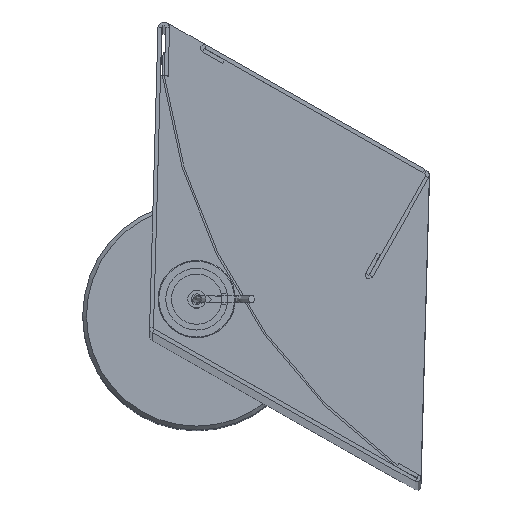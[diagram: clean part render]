
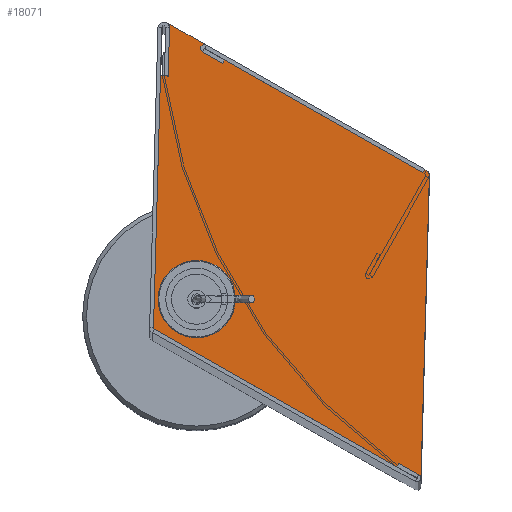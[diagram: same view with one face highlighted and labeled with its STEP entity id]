
A CAD part, top view. The second image highlights one B-rep face of the part: STEP entity #18071.
In plain terms, the highlighted planar face has unit normal (0, 0, 1).
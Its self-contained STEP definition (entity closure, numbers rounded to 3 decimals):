
#1319=FACE_BOUND('',#4006,.T.);
#1727=PLANE('',#20087);
#2900=FACE_OUTER_BOUND('',#4005,.T.);
#4005=EDGE_LOOP('',(#14845,#14846,#14847,#14848,#14849,#14850,#14851,#14852,
#14853,#14854,#14855,#14856,#14857,#14858,#14859,#14860,#14861,#14862));
#4006=EDGE_LOOP('',(#14863));
#4997=LINE('',#30227,#6021);
#5001=LINE('',#30239,#6025);
#5004=LINE('',#30245,#6028);
#5008=LINE('',#30254,#6032);
#5011=LINE('',#30260,#6035);
#5015=LINE('',#30272,#6039);
#5019=LINE('',#30284,#6043);
#5022=LINE('',#30290,#6046);
#5025=LINE('',#30296,#6049);
#5028=LINE('',#30302,#6052);
#5031=LINE('',#30306,#6055);
#5032=LINE('',#30309,#6056);
#5035=LINE('',#30315,#6059);
#6021=VECTOR('',#23506,10.);
#6025=VECTOR('',#23518,10.);
#6028=VECTOR('',#23523,10.);
#6032=VECTOR('',#23529,10.);
#6035=VECTOR('',#23534,10.);
#6039=VECTOR('',#23546,10.);
#6043=VECTOR('',#23558,10.);
#6046=VECTOR('',#23563,10.);
#6049=VECTOR('',#23568,10.);
#6052=VECTOR('',#23573,10.);
#6055=VECTOR('',#23578,10.);
#6056=VECTOR('',#23581,10.);
#6059=VECTOR('',#23586,10.);
#6906=CIRCLE('',#20061,4.5);
#6909=CIRCLE('',#20065,1.5);
#6911=CIRCLE('',#20069,1.025);
#6913=CIRCLE('',#20076,1.5);
#6915=CIRCLE('',#20080,1.025);
#6916=CIRCLE('',#20088,0.5);
#8163=VERTEX_POINT('',#30209);
#8167=VERTEX_POINT('',#30218);
#8168=VERTEX_POINT('',#30220);
#8170=VERTEX_POINT('',#30226);
#8172=VERTEX_POINT('',#30232);
#8174=VERTEX_POINT('',#30238);
#8176=VERTEX_POINT('',#30244);
#8179=VERTEX_POINT('',#30251);
#8180=VERTEX_POINT('',#30253);
#8182=VERTEX_POINT('',#30259);
#8184=VERTEX_POINT('',#30265);
#8186=VERTEX_POINT('',#30271);
#8188=VERTEX_POINT('',#30277);
#8190=VERTEX_POINT('',#30283);
#8192=VERTEX_POINT('',#30289);
#8194=VERTEX_POINT('',#30295);
#8196=VERTEX_POINT('',#30301);
#8197=VERTEX_POINT('',#30308);
#8199=VERTEX_POINT('',#30314);
#10496=EDGE_CURVE('',#8163,#8163,#6906,.T.);
#10501=EDGE_CURVE('',#8168,#8167,#6909,.T.);
#10504=EDGE_CURVE('',#8170,#8168,#4997,.T.);
#10507=EDGE_CURVE('',#8172,#8170,#6911,.T.);
#10510=EDGE_CURVE('',#8174,#8172,#5001,.T.);
#10513=EDGE_CURVE('',#8176,#8174,#5004,.T.);
#10517=EDGE_CURVE('',#8180,#8179,#5008,.T.);
#10520=EDGE_CURVE('',#8182,#8180,#5011,.T.);
#10523=EDGE_CURVE('',#8184,#8182,#6913,.T.);
#10526=EDGE_CURVE('',#8186,#8184,#5015,.T.);
#10529=EDGE_CURVE('',#8188,#8186,#6915,.T.);
#10532=EDGE_CURVE('',#8190,#8188,#5019,.T.);
#10535=EDGE_CURVE('',#8192,#8190,#5022,.T.);
#10538=EDGE_CURVE('',#8194,#8192,#5025,.T.);
#10541=EDGE_CURVE('',#8196,#8194,#5028,.T.);
#10544=EDGE_CURVE('',#8167,#8196,#5031,.T.);
#10545=EDGE_CURVE('',#8176,#8197,#5032,.T.);
#10548=EDGE_CURVE('',#8199,#8179,#5035,.T.);
#10549=EDGE_CURVE('',#8197,#8199,#6916,.T.);
#14845=ORIENTED_EDGE('',*,*,#10513,.T.);
#14846=ORIENTED_EDGE('',*,*,#10510,.T.);
#14847=ORIENTED_EDGE('',*,*,#10507,.T.);
#14848=ORIENTED_EDGE('',*,*,#10504,.T.);
#14849=ORIENTED_EDGE('',*,*,#10501,.T.);
#14850=ORIENTED_EDGE('',*,*,#10544,.T.);
#14851=ORIENTED_EDGE('',*,*,#10541,.T.);
#14852=ORIENTED_EDGE('',*,*,#10538,.T.);
#14853=ORIENTED_EDGE('',*,*,#10535,.T.);
#14854=ORIENTED_EDGE('',*,*,#10532,.T.);
#14855=ORIENTED_EDGE('',*,*,#10529,.T.);
#14856=ORIENTED_EDGE('',*,*,#10526,.T.);
#14857=ORIENTED_EDGE('',*,*,#10523,.T.);
#14858=ORIENTED_EDGE('',*,*,#10520,.T.);
#14859=ORIENTED_EDGE('',*,*,#10517,.T.);
#14860=ORIENTED_EDGE('',*,*,#10548,.F.);
#14861=ORIENTED_EDGE('',*,*,#10549,.F.);
#14862=ORIENTED_EDGE('',*,*,#10545,.F.);
#14863=ORIENTED_EDGE('',*,*,#10496,.T.);
#18071=ADVANCED_FACE('',(#2900,#1319),#1727,.T.);
#20061=AXIS2_PLACEMENT_3D('',#30210,#23490,#23491);
#20065=AXIS2_PLACEMENT_3D('',#30221,#23500,#23501);
#20069=AXIS2_PLACEMENT_3D('',#30233,#23512,#23513);
#20076=AXIS2_PLACEMENT_3D('',#30266,#23540,#23541);
#20080=AXIS2_PLACEMENT_3D('',#30278,#23552,#23553);
#20087=AXIS2_PLACEMENT_3D('',#30313,#23584,#23585);
#20088=AXIS2_PLACEMENT_3D('',#30316,#23587,#23588);
#23490=DIRECTION('center_axis',(0.,0.,-1.));
#23491=DIRECTION('ref_axis',(1.,0.,0.));
#23500=DIRECTION('center_axis',(0.,0.,1.));
#23501=DIRECTION('ref_axis',(0.,-1.,0.));
#23506=DIRECTION('',(-0.883,-0.469,0.));
#23512=DIRECTION('center_axis',(0.,0.,-1.));
#23513=DIRECTION('ref_axis',(1.,0.,0.));
#23518=DIRECTION('',(0.,1.,0.));
#23523=DIRECTION('',(-1.,0.,0.));
#23529=DIRECTION('',(0.469,-0.883,0.));
#23534=DIRECTION('',(0.883,0.469,0.));
#23540=DIRECTION('center_axis',(0.,0.,-1.));
#23541=DIRECTION('ref_axis',(-0.469,0.883,0.));
#23546=DIRECTION('',(0.,-1.,0.));
#23552=DIRECTION('center_axis',(0.,0.,-1.));
#23553=DIRECTION('ref_axis',(-1.,0.,0.));
#23558=DIRECTION('',(0.,-1.,0.));
#23563=DIRECTION('',(1.,0.,0.));
#23568=DIRECTION('',(0.,-1.,0.));
#23573=DIRECTION('',(1.,0.,0.));
#23578=DIRECTION('',(0.,-1.,0.));
#23581=DIRECTION('',(0.,-1.,0.));
#23584=DIRECTION('center_axis',(0.,0.,1.));
#23585=DIRECTION('ref_axis',(1.,0.,0.));
#23586=DIRECTION('',(-0.883,-0.469,0.));
#23587=DIRECTION('center_axis',(0.,0.,-1.));
#23588=DIRECTION('ref_axis',(0.857,-0.515,0.));
#30209=CARTESIAN_POINT('',(-15.5,6.609,1.));
#30210=CARTESIAN_POINT('Origin',(-11.,6.609,1.));
#30218=CARTESIAN_POINT('',(-70.516,41.153,1.));
#30220=CARTESIAN_POINT('',(-69.72,42.478,1.));
#30221=CARTESIAN_POINT('Origin',(-69.016,41.153,1.));
#30226=CARTESIAN_POINT('',(-0.506,79.279,1.));
#30227=CARTESIAN_POINT('',(-26.109,65.666,1.));
#30232=CARTESIAN_POINT('',(-1.05,78.374,1.));
#30233=CARTESIAN_POINT('Origin',(-0.025,78.374,1.));
#30238=CARTESIAN_POINT('',(-1.05,72.399,1.));
#30239=CARTESIAN_POINT('',(-1.05,46.81,1.));
#30244=CARTESIAN_POINT('',(0.,72.399,1.));
#30245=CARTESIAN_POINT('',(-17.659,72.399,1.));
#30251=CARTESIAN_POINT('',(-57.744,-30.703,1.));
#30253=CARTESIAN_POINT('',(-58.683,-28.937,1.));
#30254=CARTESIAN_POINT('',(-66.504,-14.228,1.));
#30259=CARTESIAN_POINT('',(-69.72,-34.806,1.));
#30260=CARTESIAN_POINT('',(-44.698,-21.501,1.));
#30265=CARTESIAN_POINT('',(-70.516,-36.13,1.));
#30266=CARTESIAN_POINT('Origin',(-69.016,-36.13,1.));
#30271=CARTESIAN_POINT('',(-70.516,-24.322,1.));
#30272=CARTESIAN_POINT('',(-70.516,-1.55,1.));
#30277=CARTESIAN_POINT('',(-68.466,-24.322,1.));
#30278=CARTESIAN_POINT('Origin',(-69.491,-24.322,1.));
#30283=CARTESIAN_POINT('',(-68.466,-18.347,1.));
#30284=CARTESIAN_POINT('',(-68.466,1.437,1.));
#30289=CARTESIAN_POINT('',(-69.516,-18.347,1.));
#30290=CARTESIAN_POINT('',(-52.417,-18.347,1.));
#30295=CARTESIAN_POINT('',(-69.516,40.653,1.));
#30296=CARTESIAN_POINT('',(-69.516,30.937,1.));
#30301=CARTESIAN_POINT('',(-70.516,40.653,1.));
#30302=CARTESIAN_POINT('',(-52.917,40.653,1.));
#30306=CARTESIAN_POINT('',(-70.516,31.187,1.));
#30308=CARTESIAN_POINT('',(0.,0.3,1.));
#30309=CARTESIAN_POINT('',(0.,0.,1.));
#30313=CARTESIAN_POINT('Origin',(-35.318,21.221,1.));
#30314=CARTESIAN_POINT('',(-0.265,-0.141,1.));
#30315=CARTESIAN_POINT('',(-70.636,-37.558,1.));
#30316=CARTESIAN_POINT('Origin',(-0.5,0.3,1.));
